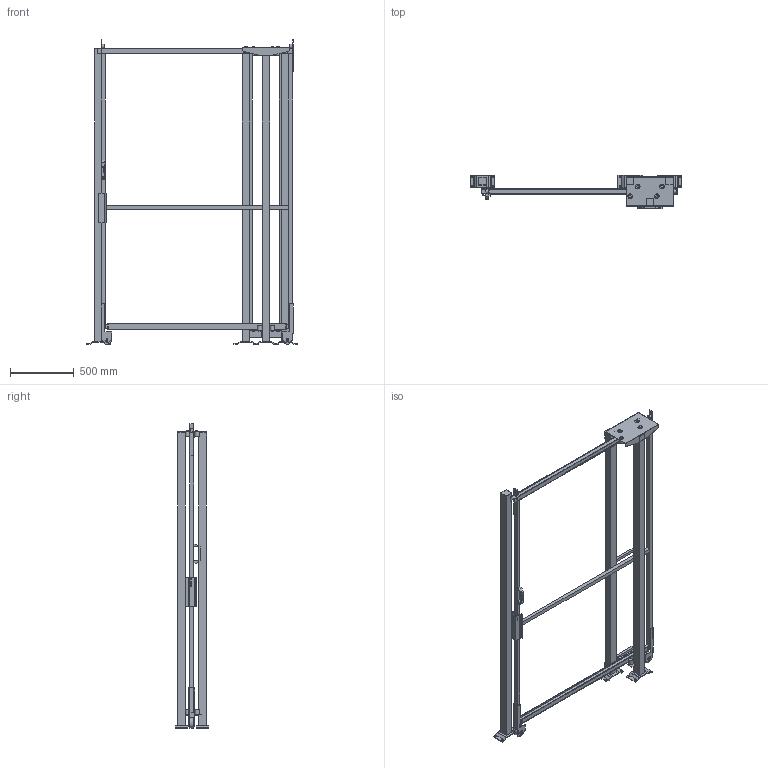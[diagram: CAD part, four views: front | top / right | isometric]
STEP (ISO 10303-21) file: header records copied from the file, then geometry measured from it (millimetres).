
FILE_DESCRIPTION(/* description */ (''),/* implementation_level */ '2;1');
FILE_NAME(/* name */ 'C:\SafeGuarding\ELABORATI\KLADKA_2025-03-20-07-31-21.stp',/* time_stamp */ '2025-03-20T07:31:22+01:00',/* author */ ('admin'),/* organization */ (''),/* preprocessor_version */ 'ST-DEVELOPER v18.1',/* originating_system */ 'AutoCAD Mechanical',/* authorisation */ '');
FILE_SCHEMA (('AUTOMOTIVE_DESIGN { 1 0 10303 214 3 1 1 }'));
Length unit declared in the file: millimetre
Products named in the file (4): Product; R_VFPA.REPE30.15002200; R_VFPA.REPE20.02502200; P_VFMA.V360SDU.2320
Assembly tree (6 placements, depth 2):
  Product
    R_VFPA.REPE30.15002200
    R_VFPA.REPE20.02502200
    P_VFMA.V360SDU.2320  x4
Bounding box: 1662.03 x 264.11 x 2390.02 mm (x, y, z)
Volume: 46594054.2 mm3; surface area: 6056203.9 mm2
Topology: 55 solids, 66 shells, 519 faces, 1584 edges, 1535 vertices
Faces by surface type: plane 467, cylinder 50, sphere 2
Full cylindrical faces by diameter (mm): 9 x4, 11 x16, 13 x4, 30 x6, 36 x8, 80 x2
Entity records: 14654 total; most frequent: CARTESIAN_POINT 3098, DIRECTION 2232, ORIENTED_EDGE 2058, EDGE_CURVE 1078, LINE 1066, VECTOR 1066, VERTEX_POINT 758, AXIS2_PLACEMENT_3D 583
